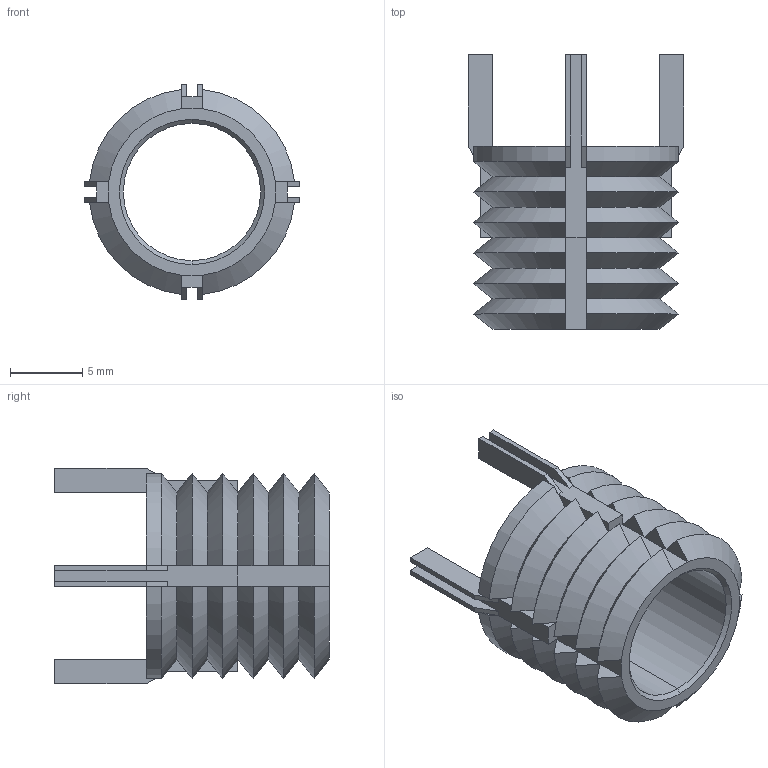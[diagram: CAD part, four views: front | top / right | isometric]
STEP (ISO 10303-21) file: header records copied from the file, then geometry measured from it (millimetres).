
FILE_DESCRIPTION (( 'STEP AP203' ), '1' );
FILE_NAME ('TR1565.66304.step', '2023-03-29T14:31:00', ( '' ), ( '' ), 'SwSTEP 2.0', 'SolidWorks 2019', '' );
FILE_SCHEMA (( 'CONFIG_CONTROL_DESIGN' ));
Length unit declared in the file: inch
Products named in the file (3): Part2_TR1565.66304; TR1565.66304; Part1_TR1565.66304
Assembly tree (5 placements, depth 2):
  TR1565.66304
    Part1_TR1565.66304
    Part2_TR1565.66304  x4
Bounding box: 14.94 x 19.05 x 14.94 mm (x, y, z)
Volume: 829.2 mm3; surface area: 1666.2 mm2
Topology: 5 solids, 5 shells, 156 faces, 346 edges, 200 vertices
Faces by surface type: plane 102, cone 48, cylinder 6
Entity records: 3735 total; most frequent: CARTESIAN_POINT 920, ORIENTED_EDGE 512, DIRECTION 484, EDGE_CURVE 256, AXIS2_PLACEMENT_3D 188, VERTEX_POINT 140, EDGE_LOOP 122, FACE_OUTER_BOUND 120
